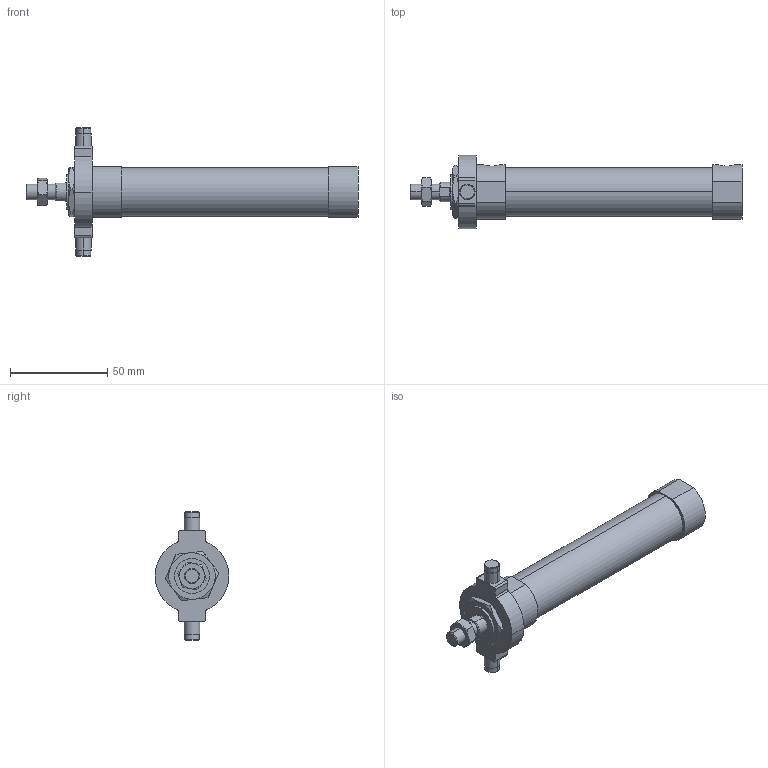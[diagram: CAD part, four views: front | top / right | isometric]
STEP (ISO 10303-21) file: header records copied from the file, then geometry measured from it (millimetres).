
FILE_DESCRIPTION (( 'STEP AP203' ), '1' );
FILE_NAME ('JGND2-20-75-T.STEP', '2016-08-04T02:29:09', ( '' ), ( '' ), 'SwSTEP 2.0', 'SolidWorks 2014', '' );
FILE_SCHEMA (( 'CONFIG_CONTROL_DESIGN' ));
Length unit declared in the file: millimetre
Products named in the file (5): J#2-20-75(P); J#2-20-T; JGND2-20-75-T
Assembly tree (4 placements, depth 2):
  JGND2-20-75-T
    J#2-20-75(P)
    (unnamed)
    (unnamed)
    J#2-20-T
Bounding box: 171 x 38 x 66 mm (x, y, z)
Volume: 84802.2 mm3; surface area: 20164.3 mm2
Topology: 4 solids, 4 shells, 123 faces, 275 edges, 170 vertices
Faces by surface type: plane 44, cylinder 43, torus 24, cone 12
Entity records: 4286 total; most frequent: CARTESIAN_POINT 1031, DIRECTION 597, ORIENTED_EDGE 550, EDGE_CURVE 275, AXIS2_PLACEMENT_3D 248, VERTEX_POINT 170, EDGE_LOOP 139, FACE_OUTER_BOUND 123
